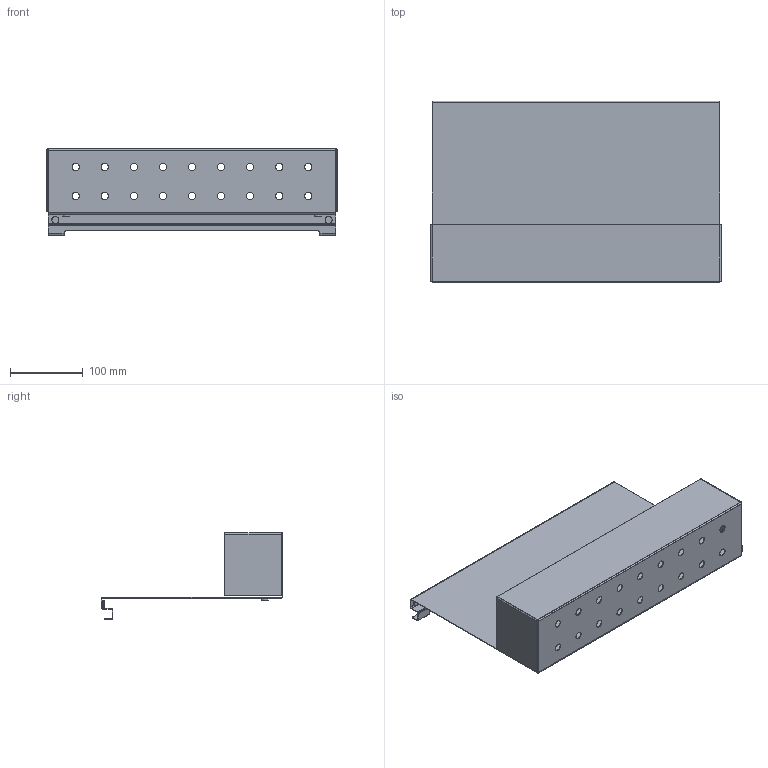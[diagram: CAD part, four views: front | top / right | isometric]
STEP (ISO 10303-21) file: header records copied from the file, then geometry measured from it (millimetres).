
FILE_DESCRIPTION (( 'STEP AP214' ), '1' );
FILE_NAME ('Pólka lazienkowa 40cm.STEP', '2023-03-16T10:47:16', ( '' ), ( '' ), 'SwSTEP 2.0', 'SolidWorks 2021', '' );
FILE_SCHEMA (( 'AUTOMOTIVE_DESIGN' ));
Length unit declared in the file: millimetre
Products named in the file (3): stopka gumowa 10mm_7mm; Pólka lazienkowa 40cm; 01-010-0400-W-00-00
Assembly tree (5 placements, depth 2):
  Pólka lazienkowa 40cm
    01-010-0400-W-00-00
    stopka gumowa 10mm_7mm  x4
Bounding box: 400 x 250 x 119 mm (x, y, z)
Volume: 193017.3 mm3; surface area: 387964.2 mm2
Topology: 5 solids, 5 shells, 172 faces, 394 edges, 236 vertices
Faces by surface type: cylinder 88, plane 76, torus 8
Entity records: 4386 total; most frequent: DIRECTION 808, CARTESIAN_POINT 705, ORIENTED_EDGE 692, EDGE_CURVE 346, AXIS2_PLACEMENT_3D 309, VERTEX_POINT 206, EDGE_LOOP 190, VECTOR 190
